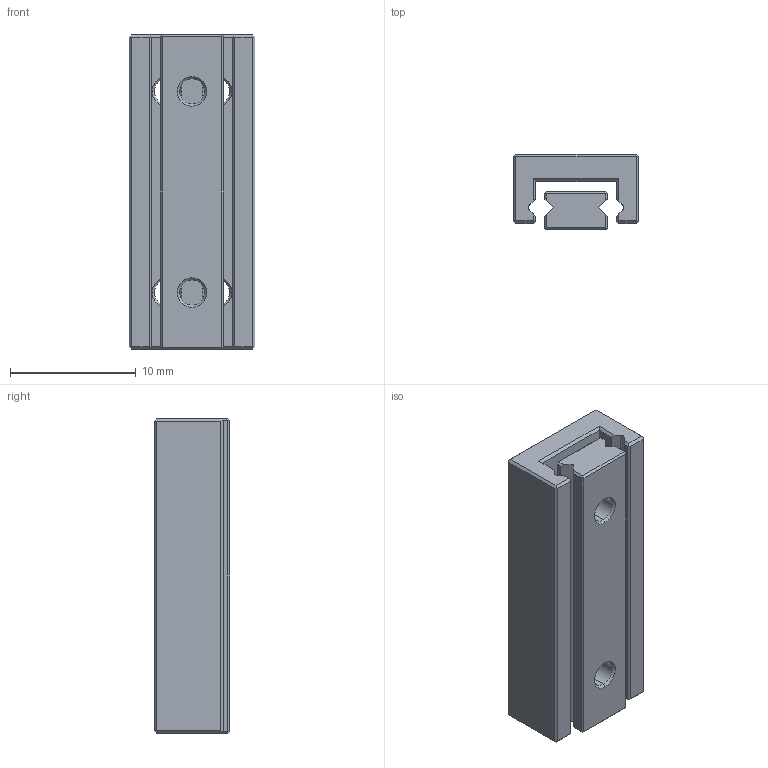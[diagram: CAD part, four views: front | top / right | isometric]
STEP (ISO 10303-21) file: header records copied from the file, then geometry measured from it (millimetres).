
FILE_DESCRIPTION (( 'STEP AP214' ), '1' );
FILE_NAME ('PMM 1-25.STEP', '2012-03-02T10:39:32', ( '' ), ( '' ), 'SwSTEP 2.0', 'SolidWorks 2011', '' );
FILE_SCHEMA (( 'AUTOMOTIVE_DESIGN' ));
Length unit declared in the file: millimetre
Products named in the file (1): PMM 1-25
Bounding box: 10 x 6 x 25 mm (x, y, z)
Volume: 1110.6 mm3; surface area: 1505.2 mm2
Topology: 2 solids, 2 shells, 256 faces, 696 edges, 460 vertices
Faces by surface type: plane 174, bspline 43, cone 24, cylinder 15
Entity records: 11893 total; most frequent: CARTESIAN_POINT 4024, ORIENTED_EDGE 1392, DIRECTION 1108, EDGE_CURVE 696, VECTOR 540, LINE 540, VERTEX_POINT 460, EDGE_LOOP 284
